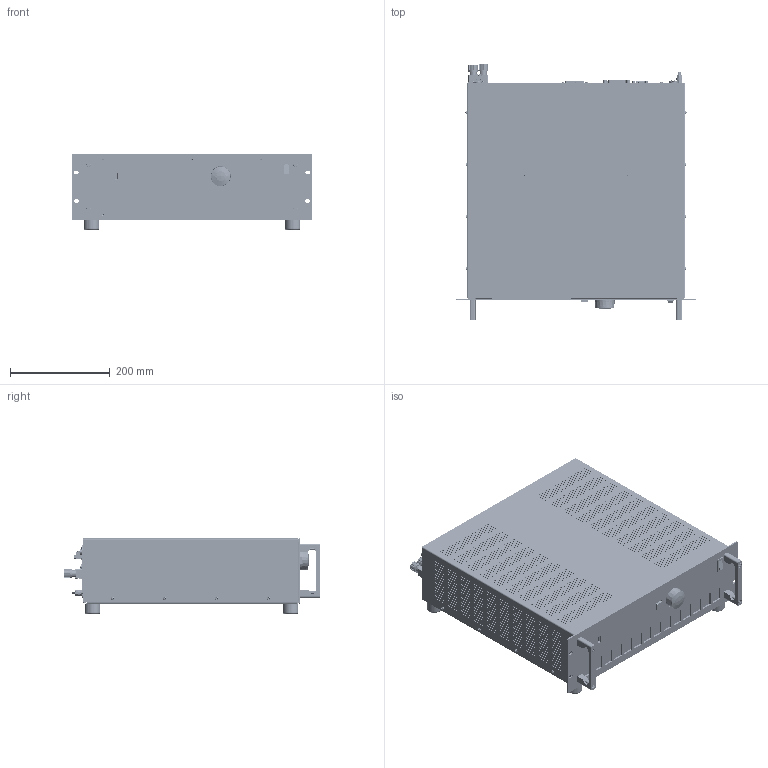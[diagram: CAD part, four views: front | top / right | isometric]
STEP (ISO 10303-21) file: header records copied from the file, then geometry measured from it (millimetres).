
FILE_DESCRIPTION(('STEP AP214'),'1');
FILE_NAME('QL_M7_19Z_3HE_PK4_60L_3D_01_01.step','2022-06-23T08:03:31',(' '),(' '),'Spatial InterOp 3D',' ',' ');
FILE_SCHEMA(('AUTOMOTIVE_DESIGN { 1 0 10303 214 1 1 1 1 }'));
Length unit declared in the file: millimetre
Products named in the file (24): 151_PLHA_3D_05; PEM_M3_; 2230_QL 3HE Rückwand_3D_02_mit_Einbauten; *U411; *U412; *U413; AutoCreatedBlock_1827; 2235_QL Gehäuse 3HE_3D_01; 2228_QL Frontplatte 3HE 3D_02_mit_Einbauten; BG441_mit_MT1955_3D_01; *U497; AutoCreatedBlock_1839; 358_QUPRO_3D_03; DIN 965-A; 2257_QL_IO Panel Standard_3D_01; 2084_IO-Port Abdeckung_3D_01; DIN 7985-A; 2390_QL_3HE_Polklemmendurchführung_3D_01_mit_PBK4_60L; 3xM2.5_5x5x12; *U579; AutoCreatedBlock_1853; AutoCreatedBlock_1819
Assembly tree (65 placements, depth 3):
  (unnamed)
    151_PLHA_3D_05  x2
    PEM_M3_  x2
    2230_QL 3HE Rückwand_3D_02_mit_Einbauten
      *U411
      *U412  x2
      *U413  x3
      AutoCreatedBlock_1827
    2235_QL Gehäuse 3HE_3D_01
    2228_QL Frontplatte 3HE 3D_02_mit_Einbauten
    BG441_mit_MT1955_3D_01
      *U497  x2
      AutoCreatedBlock_1839
    358_QUPRO_3D_03
    DIN 965-A  x3
    2257_QL_IO Panel Standard_3D_01
    2084_IO-Port Abdeckung_3D_01  x2
    DIN 7985-A  x23
    2390_QL_3HE_Polklemmendurchführung_3D_01_mit_PBK4_60L
      3xM2.5_5x5x12  x2
      *U579  x2
      AutoCreatedBlock_1853
    DIN 7985-A  x10
    AutoCreatedBlock_1819
Bounding box: 482.6 x 514.84 x 152.68 mm (x, y, z)
Volume: 24310785.2 mm3; surface area: 2060390.5 mm2
Topology: 230 solids, 231 shells, 19323 faces, 50030 edges, 31804 vertices
Faces by surface type: plane 8705, cone 5349, cylinder 4547, torus 279, bspline 277, sphere 154, extrusion 12
Entity records: 680746 total; most frequent: CARTESIAN_POINT 133686, DIRECTION 87413, ORIENTED_EDGE 85034, EDGE_CURVE 42517, AXIS2_PLACEMENT_3D 29764, VECTOR 27885, LINE 27873, VERTEX_POINT 27026
